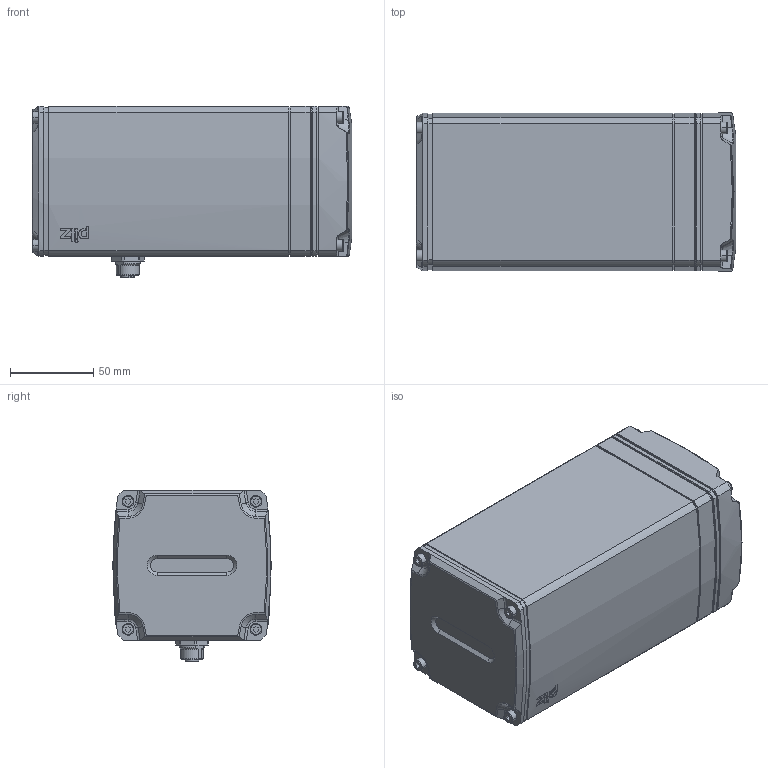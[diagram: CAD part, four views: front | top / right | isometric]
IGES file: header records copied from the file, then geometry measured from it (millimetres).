
Start section:  PTC IGES file: 2017196
Global section: file name: 2017196; native system: Creo Parametric by Parametric Technology Corporation; preprocessor: 2014310; author: veit; organization: Unknown; date: 20150227.141152; units: millimetre
Bounding box: 192 x 95 x 102.8 mm (x, y, z)
Surface area: 88856.9 mm2 (no closed solid volume)
Topology: 0 solids, 0 shells, 594 faces, 3012 edges, 2992 vertices
Faces by surface type: revolution 299, bspline 295
